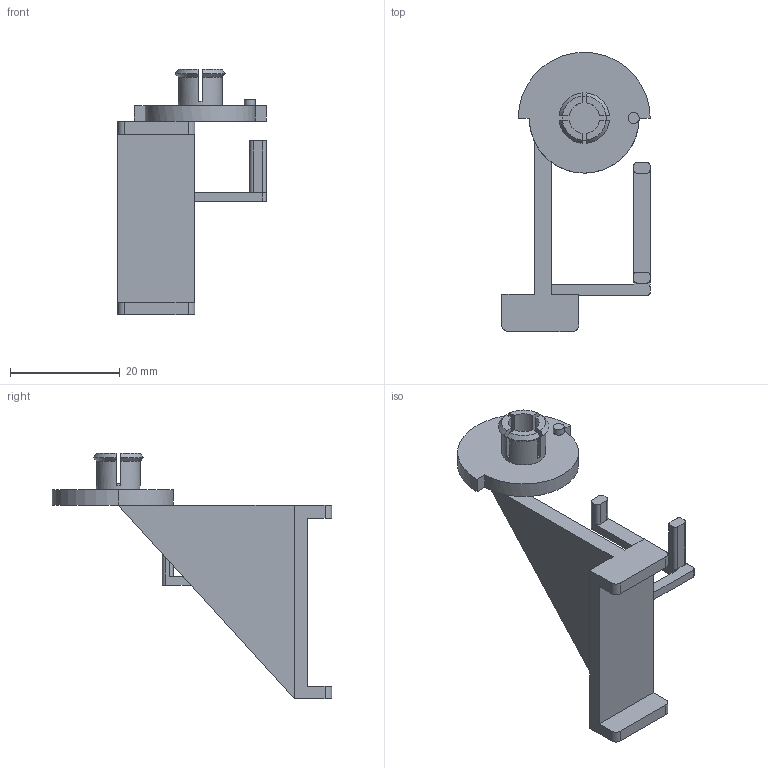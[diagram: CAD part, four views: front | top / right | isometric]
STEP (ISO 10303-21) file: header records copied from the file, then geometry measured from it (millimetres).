
FILE_DESCRIPTION(('Open CASCADE Model'),'2;1');
FILE_NAME('Open CASCADE Shape Model','2026-10-14T00:43:49',('Author'),( 'Open CASCADE'),'Open CASCADE STEP processor 8.0','build123d', 'Unknown');
FILE_SCHEMA(('AUTOMOTIVE_DESIGN { 1 0 10303 214 1 1 1 1 }'));
Length unit declared in the file: millimetre
Products named in the file (1): COMPOUND
Bounding box: 27 x 50.8 x 44.6 mm (x, y, z)
Volume: 4645.9 mm3; surface area: 4441.1 mm2
Topology: 1 solids, 1 shells, 83 faces, 233 edges, 153 vertices
Faces by surface type: plane 49, cylinder 26, cone 8
Full cylindrical faces by diameter (mm): 2 x1, 8 x1
Entity records: 5767 total; most frequent: CARTESIAN_POINT 1290, DIRECTION 812, ORIENTED_EDGE 466, PCURVE 466, DEFINITIONAL_REPRESENTATION 466, LINE 430, VECTOR 430, EDGE_CURVE 233
